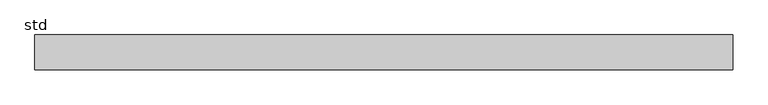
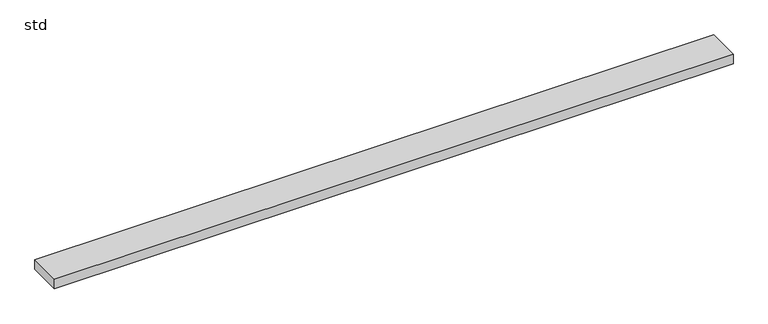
"""IFC4 building model written with IfcOpenShell, lengths in millimetres: proxy geometry, 400_35_NS_betonstrook : std."""

from ifc_helpers import new_model, si_unit, origin, origin_with_axes, place, context, project, spatial, polyline, outline, extrude, source, transform, mapped, element, save


def std_f5cab2c8(model_context):
    return source(origin(), model_context, "Body", "SweptSolid", [
        extrude(outline(polyline([(-1000.0, 0.0), (-1000.0, 100.0), (1000.0, 100.0), (1000.0, 0.0), (-1000.0, 0.0)])), origin_with_axes(), (0.0, 0.0, 1.0), 30.0),
    ])


if __name__ == "__main__":
    model = new_model("IFC4")
    model_context = context("Model", 3, world=origin())
    ifc_project = project(units=[si_unit("LENGTHUNIT", "METRE", prefix="MILLI")], contexts=[model_context])
    site = spatial("IfcSite", under=ifc_project)
    building = spatial("IfcBuilding", under=site)
    placement = place(None, origin())
    std_shape = std_f5cab2c8(model_context)
    element("IfcBuildingElementProxy", 1, Name="400_35_NS_betonstrook : std", ObjectType="400_35_NS_betonstrook : std", at=placement, inside=building, context=model_context, shape_type="MappedRepresentation", body=[
        mapped(std_shape, transform((0.0, 0.0, 0.0), x_axis=(1.0, 0.0, 0.0), y_axis=(0.0, 1.0, 0.0), z_axis=(0.0, 0.0, 1.0))),
    ])
    save(model, "model.ifc")
